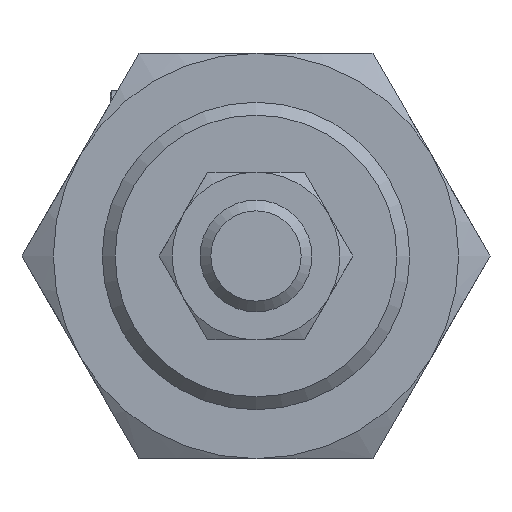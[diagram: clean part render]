
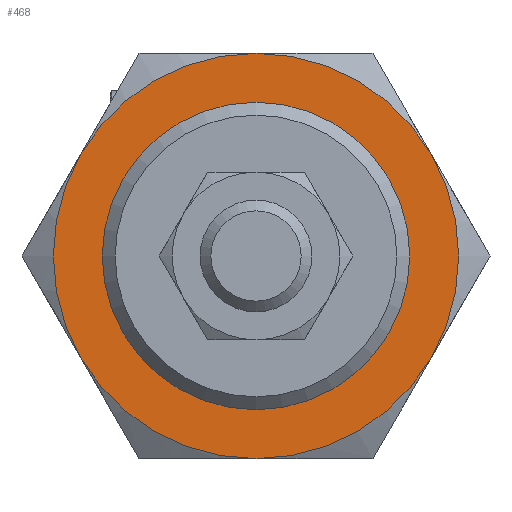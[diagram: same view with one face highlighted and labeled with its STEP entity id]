
A CAD part, left-side view. The second image highlights one B-rep face of the part: STEP entity #468.
In plain terms, the highlighted planar face has unit normal (-1, 0, 0).
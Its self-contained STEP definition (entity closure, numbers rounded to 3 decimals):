
#468 = ADVANCED_FACE( '', ( #973, #974 ), #975, .F. );
#973 = FACE_OUTER_BOUND( '', #1485, .T. );
#974 = FACE_BOUND( '', #1486, .T. );
#975 = PLANE( '', #1487 );
#1485 = EDGE_LOOP( '', ( #2569, #2570, #2571, #2572, #2573, #2574 ) );
#1486 = EDGE_LOOP( '', ( #2575 ) );
#1487 = AXIS2_PLACEMENT_3D( '', #2576, #2577, #2578 );
#2569 = ORIENTED_EDGE( '', *, *, #3173, .F. );
#2570 = ORIENTED_EDGE( '', *, *, #3174, .F. );
#2571 = ORIENTED_EDGE( '', *, *, #3134, .F. );
#2572 = ORIENTED_EDGE( '', *, *, #3100, .F. );
#2573 = ORIENTED_EDGE( '', *, *, #3130, .F. );
#2574 = ORIENTED_EDGE( '', *, *, #3073, .F. );
#2575 = ORIENTED_EDGE( '', *, *, #2903, .T. );
#2576 = CARTESIAN_POINT( '', ( -11., 0., 0. ) );
#2577 = DIRECTION( '', ( 1., 0., 0. ) );
#2578 = DIRECTION( '', ( 0., 0., -1. ) );
#2903 = EDGE_CURVE( '', #3459, #3459, #3460, .T. );
#3073 = EDGE_CURVE( '', #3704, #3312, #3706, .T. );
#3100 = EDGE_CURVE( '', #3740, #3540, #3745, .T. );
#3130 = EDGE_CURVE( '', #3312, #3740, #3784, .T. );
#3134 = EDGE_CURVE( '', #3540, #3581, #3788, .T. );
#3173 = EDGE_CURVE( '', #3392, #3704, #3831, .T. );
#3174 = EDGE_CURVE( '', #3581, #3392, #3832, .T. );
#3312 = VERTEX_POINT( '', #4018 );
#3392 = VERTEX_POINT( '', #4155 );
#3459 = VERTEX_POINT( '', #4268 );
#3460 = CIRCLE( '', #4269, 11. );
#3540 = VERTEX_POINT( '', #4440 );
#3581 = VERTEX_POINT( '', #4534 );
#3704 = VERTEX_POINT( '', #4783 );
#3706 = CIRCLE( '', #4792, 14.5 );
#3740 = VERTEX_POINT( '', #4827 );
#3745 = CIRCLE( '', #4845, 14.5 );
#3784 = CIRCLE( '', #4951, 14.5 );
#3788 = CIRCLE( '', #4955, 14.5 );
#3831 = CIRCLE( '', #5017, 14.5 );
#3832 = CIRCLE( '', #5018, 14.5 );
#4018 = CARTESIAN_POINT( '', ( -11., 0., 14.5 ) );
#4155 = CARTESIAN_POINT( '', ( -11., 12.557, -7.25 ) );
#4268 = CARTESIAN_POINT( '', ( -11., 0., -11. ) );
#4269 = AXIS2_PLACEMENT_3D( '', #5257, #5258, #5259 );
#4440 = CARTESIAN_POINT( '', ( -11., -12.557, -7.25 ) );
#4534 = CARTESIAN_POINT( '', ( -11., 0., -14.5 ) );
#4783 = CARTESIAN_POINT( '', ( -11., 12.557, 7.25 ) );
#4792 = AXIS2_PLACEMENT_3D( '', #5414, #5415, #5416 );
#4827 = CARTESIAN_POINT( '', ( -11., -12.557, 7.25 ) );
#4845 = AXIS2_PLACEMENT_3D( '', #5452, #5453, #5454 );
#4951 = AXIS2_PLACEMENT_3D( '', #5492, #5493, #5494 );
#4955 = AXIS2_PLACEMENT_3D( '', #5498, #5499, #5500 );
#5017 = AXIS2_PLACEMENT_3D( '', #5523, #5524, #5525 );
#5018 = AXIS2_PLACEMENT_3D( '', #5526, #5527, #5528 );
#5257 = CARTESIAN_POINT( '', ( -11., 0., 0. ) );
#5258 = DIRECTION( '', ( 1., 0., 0. ) );
#5259 = DIRECTION( '', ( 0., 0., -1. ) );
#5414 = CARTESIAN_POINT( '', ( -11., 0., 0. ) );
#5415 = DIRECTION( '', ( 1., 0., 0. ) );
#5416 = DIRECTION( '', ( 0., 0., -1. ) );
#5452 = CARTESIAN_POINT( '', ( -11., 0., 0. ) );
#5453 = DIRECTION( '', ( 1., 0., 0. ) );
#5454 = DIRECTION( '', ( 0., 0., -1. ) );
#5492 = CARTESIAN_POINT( '', ( -11., 0., 0. ) );
#5493 = DIRECTION( '', ( 1., 0., 0. ) );
#5494 = DIRECTION( '', ( 0., 0., -1. ) );
#5498 = CARTESIAN_POINT( '', ( -11., 0., 0. ) );
#5499 = DIRECTION( '', ( 1., 0., 0. ) );
#5500 = DIRECTION( '', ( 0., 0., -1. ) );
#5523 = CARTESIAN_POINT( '', ( -11., 0., 0. ) );
#5524 = DIRECTION( '', ( 1., 0., 0. ) );
#5525 = DIRECTION( '', ( 0., 0., -1. ) );
#5526 = CARTESIAN_POINT( '', ( -11., 0., 0. ) );
#5527 = DIRECTION( '', ( 1., 0., 0. ) );
#5528 = DIRECTION( '', ( 0., 0., -1. ) );
